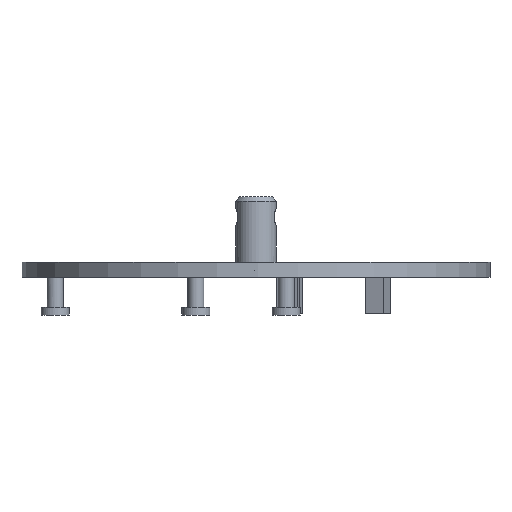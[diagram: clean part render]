
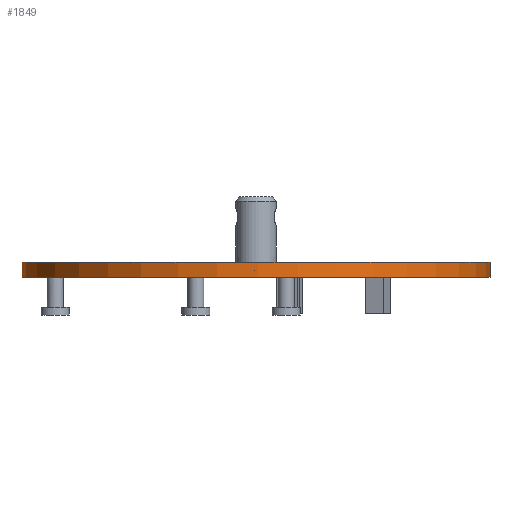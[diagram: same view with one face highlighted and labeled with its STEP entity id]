
A CAD part, front view. The second image highlights one B-rep face of the part: STEP entity #1849.
In plain terms, the highlighted cylindrical face has radius 46.6 mm (diameter 93.2 mm), a partial arc.
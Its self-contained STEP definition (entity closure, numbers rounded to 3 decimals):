
#22 = VERTEX_POINT('',#23);
#23 = CARTESIAN_POINT('',(46.6,0.,7.503));
#33 = CYLINDRICAL_SURFACE('',#34,46.6);
#34 = AXIS2_PLACEMENT_3D('',#35,#36,#37);
#35 = CARTESIAN_POINT('',(0.,0.,7.503));
#36 = DIRECTION('',(-0.,-0.,-1.));
#37 = DIRECTION('',(1.,0.,0.));
#45 = PLANE('',#46);
#46 = AXIS2_PLACEMENT_3D('',#47,#48,#49);
#47 = CARTESIAN_POINT('',(0.,0.,
    7.503));
#48 = DIRECTION('',(0.,0.,1.));
#49 = DIRECTION('',(1.,0.,-0.));
#57 = EDGE_CURVE('',#22,#58,#60,.T.);
#58 = VERTEX_POINT('',#59);
#59 = CARTESIAN_POINT('',(46.6,0.,10.503));
#60 = SURFACE_CURVE('',#61,(#65,#72),.PCURVE_S1.);
#61 = LINE('',#62,#63);
#62 = CARTESIAN_POINT('',(46.6,0.,7.503));
#63 = VECTOR('',#64,1.);
#64 = DIRECTION('',(0.,0.,1.));
#65 = PCURVE('',#33,#66);
#66 = DEFINITIONAL_REPRESENTATION('',(#67),#71);
#67 = LINE('',#68,#69);
#68 = CARTESIAN_POINT('',(-0.,0.));
#69 = VECTOR('',#70,1.);
#70 = DIRECTION('',(-0.,-1.));
#71 = ( GEOMETRIC_REPRESENTATION_CONTEXT(2) 
PARAMETRIC_REPRESENTATION_CONTEXT() REPRESENTATION_CONTEXT('2D SPACE',''
  ) );
#72 = PCURVE('',#73,#78);
#73 = CYLINDRICAL_SURFACE('',#74,46.6);
#74 = AXIS2_PLACEMENT_3D('',#75,#76,#77);
#75 = CARTESIAN_POINT('',(0.,0.,7.503));
#76 = DIRECTION('',(-0.,-0.,-1.));
#77 = DIRECTION('',(1.,0.,0.));
#78 = DEFINITIONAL_REPRESENTATION('',(#79),#83);
#79 = LINE('',#80,#81);
#80 = CARTESIAN_POINT('',(-6.283,0.));
#81 = VECTOR('',#82,1.);
#82 = DIRECTION('',(-0.,-1.));
#83 = ( GEOMETRIC_REPRESENTATION_CONTEXT(2) 
PARAMETRIC_REPRESENTATION_CONTEXT() REPRESENTATION_CONTEXT('2D SPACE',''
  ) );
#102 = PLANE('',#103);
#103 = AXIS2_PLACEMENT_3D('',#104,#105,#106);
#104 = CARTESIAN_POINT('',(0.,0.,
    10.503));
#105 = DIRECTION('',(0.,0.,1.));
#106 = DIRECTION('',(1.,0.,-0.));
#143 = EDGE_CURVE('',#144,#22,#146,.T.);
#144 = VERTEX_POINT('',#145);
#145 = CARTESIAN_POINT('',(14.817,44.181,7.503
    ));
#146 = SURFACE_CURVE('',#147,(#152,#159),.PCURVE_S1.);
#147 = CIRCLE('',#148,46.6);
#148 = AXIS2_PLACEMENT_3D('',#149,#150,#151);
#149 = CARTESIAN_POINT('',(0.,0.,7.503));
#150 = DIRECTION('',(0.,0.,1.));
#151 = DIRECTION('',(1.,0.,0.));
#152 = PCURVE('',#45,#153);
#153 = DEFINITIONAL_REPRESENTATION('',(#154),#158);
#154 = CIRCLE('',#155,46.6);
#155 = AXIS2_PLACEMENT_2D('',#156,#157);
#156 = CARTESIAN_POINT('',(0.,0.));
#157 = DIRECTION('',(1.,0.));
#158 = ( GEOMETRIC_REPRESENTATION_CONTEXT(2) 
PARAMETRIC_REPRESENTATION_CONTEXT() REPRESENTATION_CONTEXT('2D SPACE',''
  ) );
#159 = PCURVE('',#73,#160);
#160 = DEFINITIONAL_REPRESENTATION('',(#161),#165);
#161 = LINE('',#162,#163);
#162 = CARTESIAN_POINT('',(-0.,0.));
#163 = VECTOR('',#164,1.);
#164 = DIRECTION('',(-1.,0.));
#165 = ( GEOMETRIC_REPRESENTATION_CONTEXT(2) 
PARAMETRIC_REPRESENTATION_CONTEXT() REPRESENTATION_CONTEXT('2D SPACE',''
  ) );
#233 = PLANE('',#234);
#234 = AXIS2_PLACEMENT_3D('',#235,#236,#237);
#235 = CARTESIAN_POINT('',(14.474,43.288,
    7.503));
#236 = DIRECTION('',(-0.934,0.358,0.));
#237 = DIRECTION('',(0.,0.,1.));
#1355 = EDGE_CURVE('',#1356,#58,#1358,.T.);
#1356 = VERTEX_POINT('',#1357);
#1357 = CARTESIAN_POINT('',(14.817,44.181,
    10.503));
#1358 = SURFACE_CURVE('',#1359,(#1364,#1371),.PCURVE_S1.);
#1359 = CIRCLE('',#1360,46.6);
#1360 = AXIS2_PLACEMENT_3D('',#1361,#1362,#1363);
#1361 = CARTESIAN_POINT('',(0.,0.,10.503));
#1362 = DIRECTION('',(0.,0.,1.));
#1363 = DIRECTION('',(1.,0.,0.));
#1364 = PCURVE('',#102,#1365);
#1365 = DEFINITIONAL_REPRESENTATION('',(#1366),#1370);
#1366 = CIRCLE('',#1367,46.6);
#1367 = AXIS2_PLACEMENT_2D('',#1368,#1369);
#1368 = CARTESIAN_POINT('',(0.,0.));
#1369 = DIRECTION('',(1.,0.));
#1370 = ( GEOMETRIC_REPRESENTATION_CONTEXT(2) 
PARAMETRIC_REPRESENTATION_CONTEXT() REPRESENTATION_CONTEXT('2D SPACE',''
  ) );
#1371 = PCURVE('',#73,#1372);
#1372 = DEFINITIONAL_REPRESENTATION('',(#1373),#1377);
#1373 = LINE('',#1374,#1375);
#1374 = CARTESIAN_POINT('',(-0.,-3.));
#1375 = VECTOR('',#1376,1.);
#1376 = DIRECTION('',(-1.,0.));
#1377 = ( GEOMETRIC_REPRESENTATION_CONTEXT(2) 
PARAMETRIC_REPRESENTATION_CONTEXT() REPRESENTATION_CONTEXT('2D SPACE',''
  ) );
#1849 = ADVANCED_FACE('',(#1850),#73,.T.);
#1850 = FACE_BOUND('',#1851,.F.);
#1851 = EDGE_LOOP('',(#1852,#1853,#1874,#1875));
#1852 = ORIENTED_EDGE('',*,*,#143,.F.);
#1853 = ORIENTED_EDGE('',*,*,#1854,.F.);
#1854 = EDGE_CURVE('',#1356,#144,#1855,.T.);
#1855 = SURFACE_CURVE('',#1856,(#1860,#1867),.PCURVE_S1.);
#1856 = LINE('',#1857,#1858);
#1857 = CARTESIAN_POINT('',(14.817,44.181,
    7.503));
#1858 = VECTOR('',#1859,1.);
#1859 = DIRECTION('',(-0.,-0.,-1.));
#1860 = PCURVE('',#73,#1861);
#1861 = DEFINITIONAL_REPRESENTATION('',(#1862),#1866);
#1862 = LINE('',#1863,#1864);
#1863 = CARTESIAN_POINT('',(-1.247,0.));
#1864 = VECTOR('',#1865,1.);
#1865 = DIRECTION('',(-0.,1.));
#1866 = ( GEOMETRIC_REPRESENTATION_CONTEXT(2) 
PARAMETRIC_REPRESENTATION_CONTEXT() REPRESENTATION_CONTEXT('2D SPACE',''
  ) );
#1867 = PCURVE('',#233,#1868);
#1868 = DEFINITIONAL_REPRESENTATION('',(#1869),#1873);
#1869 = LINE('',#1870,#1871);
#1870 = CARTESIAN_POINT('',(0.,0.957));
#1871 = VECTOR('',#1872,1.);
#1872 = DIRECTION('',(-1.,0.));
#1873 = ( GEOMETRIC_REPRESENTATION_CONTEXT(2) 
PARAMETRIC_REPRESENTATION_CONTEXT() REPRESENTATION_CONTEXT('2D SPACE',''
  ) );
#1874 = ORIENTED_EDGE('',*,*,#1355,.T.);
#1875 = ORIENTED_EDGE('',*,*,#57,.F.);
